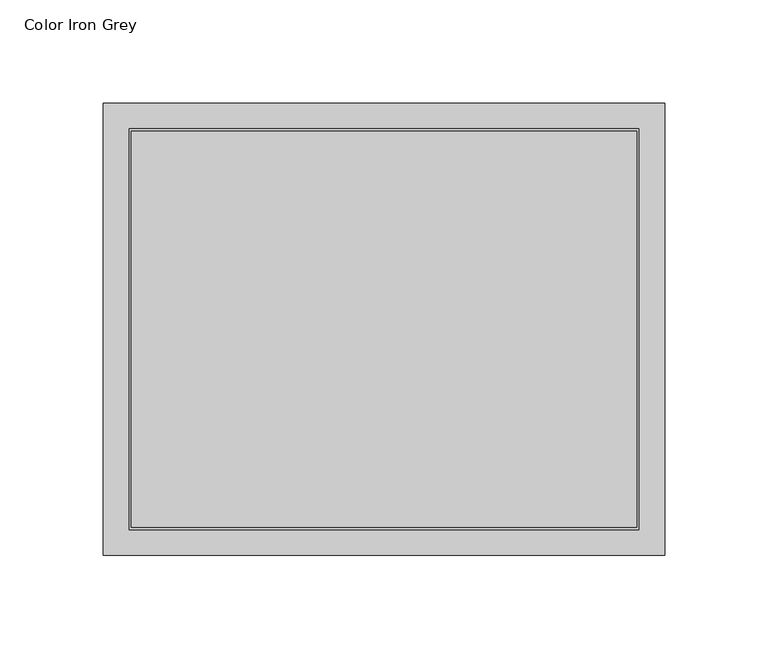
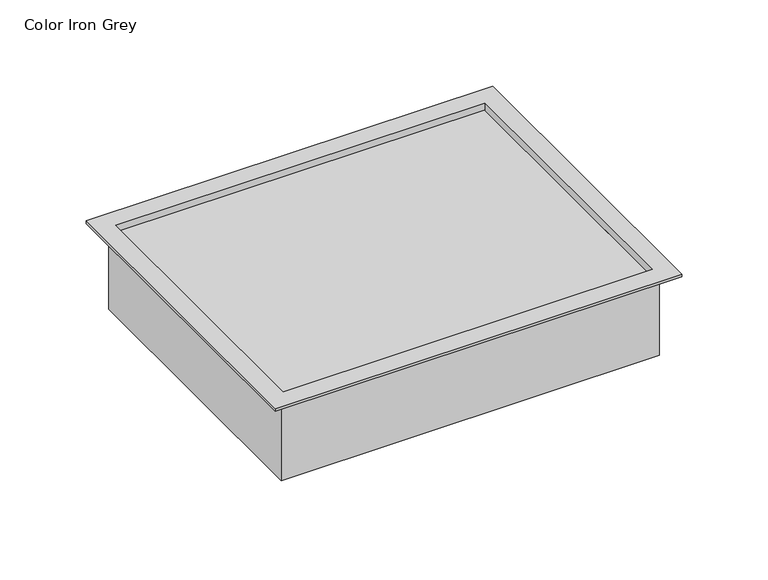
"""IFC4 building model written with IfcOpenShell, lengths in millimetres: proxy geometry, Electrical_Installation_Hager_VE-EE_Cover-VDE09 : Color Iron Grey."""

from ifc_helpers import new_model, si_unit, frame, origin, place, context, project, spatial, polyline, outline, extrude, faceted_brep, source, transform, mapped, element, save


def color_iron_grey_872dce2f(model_context):
    return source(origin(), model_context, "Body", "SolidModel", [
        faceted_brep([(136.0, 109.5, 2.0), (-136.0, 109.5, 2.0), (-136.0, -109.5, 2.0), (136.0, -109.5, 2.0), (123.5, 97.0195312, 2.0), (123.5, -97.0195312, 2.0), (-123.5, -97.0195312, 2.0), (-123.5, 97.0195312, 2.0), (136.0, 109.5, 0.0), (136.0, -109.5, 0.0), (-136.0, -109.5, 0.0), (-136.0, 109.5, 0.0), (126.5, 100.0, 0.0), (-126.5, 100.0, 0.0), (-126.5, -100.0, 0.0), (126.5, -100.0, 0.0), (-123.5, 97.0195312, -58.0), (123.5, 97.0195312, -58.0), (-123.5, -97.0195312, -58.0), (123.5, -97.0195312, -58.0), (126.5, 100.0, -58.0), (126.5, -100.0, -58.0), (-126.5, -100.0, -58.0), (-126.5, 100.0, -58.0)], [[[0, 1, 2, 3], [4, 5, 6, 7]], [[8, 9, 10, 11], [12, 13, 14, 15]], [[4, 7, 16, 17]], [[16, 7, 6, 18]], [[18, 6, 5, 19]], [[19, 5, 4, 17]], [[1, 0, 8, 11]], [[2, 1, 11, 10]], [[3, 2, 10, 9]], [[0, 3, 9, 8]], [[20, 21, 22, 23], [17, 16, 18, 19]], [[20, 23, 13, 12]], [[23, 22, 14, 13]], [[22, 21, 15, 14]], [[21, 20, 12, 15]]]),
        extrude(outline(polyline([(-123.5, -97.0195312), (-123.5, 97.0195312), (123.5, 97.0195312), (123.5, -97.0195312), (-123.5, -97.0195312)])), frame((0.0, 0.0, -8.0), z_axis=(0.0, 0.0, 1.0), x_axis=(1.0, 0.0, 0.0)), (0.0, 0.0, 1.0), 5.0),
        extrude(outline(polyline([(-122.5, 96.0), (122.5, 96.0), (122.5, -96.0), (-122.5, -96.0), (-122.5, 96.0)])), frame((0.0, 0.0, -3.0), z_axis=(0.0, 0.0, 1.0), x_axis=(1.0, 0.0, 0.0)), (0.0, 0.0, 1.0), 1.0),
    ])


if __name__ == "__main__":
    model = new_model("IFC4")
    model_context = context("Model", 3, world=origin())
    ifc_project = project(units=[si_unit("LENGTHUNIT", "METRE", prefix="MILLI")], contexts=[model_context])
    site = spatial("IfcSite", under=ifc_project)
    building = spatial("IfcBuilding", under=site)
    placement = place(None, origin())
    color_iron_grey_shape = color_iron_grey_872dce2f(model_context)
    element("IfcBuildingElementProxy", 1, Name="Electrical_Installation_Hager_VE-EE_Cover-VDE09 : Color Iron Grey", ObjectType="Electrical_Installation_Hager_VE-EE_Cover-VDE09 : Color Iron Grey", at=placement, inside=building, context=model_context, shape_type="MappedRepresentation", body=[
        mapped(color_iron_grey_shape, transform((0.0, 0.0, 0.0), x_axis=(1.0, 0.0, 0.0), y_axis=(0.0, 1.0, 0.0), z_axis=(0.0, 0.0, 1.0))),
    ])
    save(model, "model.ifc")
